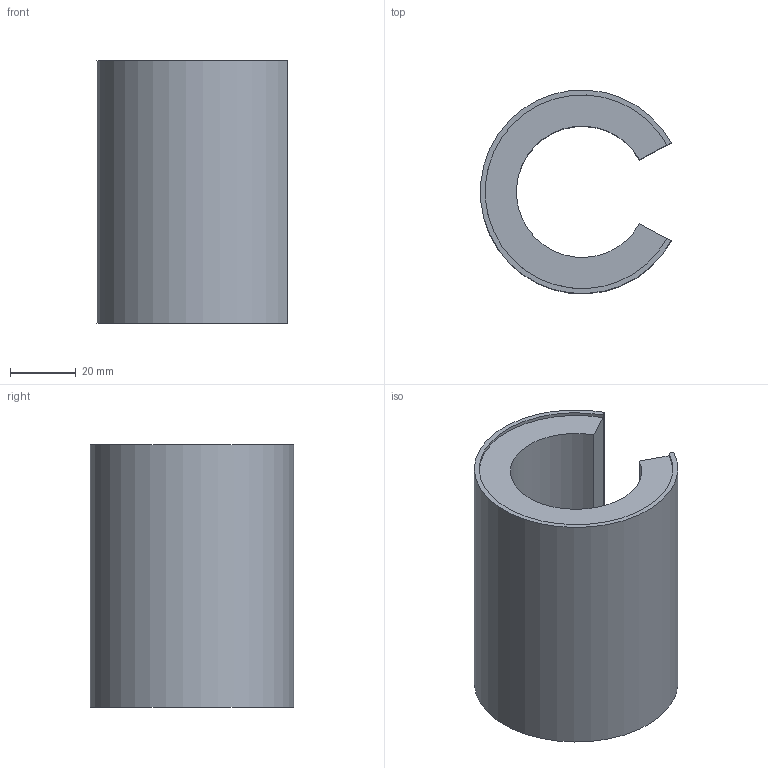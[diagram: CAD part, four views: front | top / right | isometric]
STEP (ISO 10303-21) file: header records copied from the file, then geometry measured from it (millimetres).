
FILE_DESCRIPTION(/* description */ (''),/* implementation_level */ '2;1');
FILE_NAME(/* name */ 'W:\WEBOVKY\Knecht\SBE (O)-UU\SBE (0)-40-UU\SME (O)-40-UU.stp',/* time_stamp */ '2021-03-08T14:46:22+01:00',/* author */ ('mkorenek'),/* organization */ (''),/* preprocessor_version */ 'ST-DEVELOPER v18.1',/* originating_system */ 'Autodesk Inventor 2021',/* authorisation */ '');
FILE_SCHEMA (('AUTOMOTIVE_DESIGN { 1 0 10303 214 3 1 1 }'));
Length unit declared in the file: millimetre
Products named in the file (3): LME-40-UU; vnitřek pouzdra; vnějšek pouzdra
Assembly tree (2 placements, depth 2):
  LME-40-UU
    vnitřek pouzdra
    vnějšek pouzdra
Bounding box: 58.06 x 61.93 x 80 mm (x, y, z)
Volume: 115799.3 mm3; surface area: 50582.6 mm2
Topology: 2 solids, 2 shells, 12 faces, 24 edges, 16 vertices
Faces by surface type: plane 8, cylinder 4
Entity records: 443 total; most frequent: DIRECTION 66, CARTESIAN_POINT 57, ORIENTED_EDGE 48, AXIS2_PLACEMENT_3D 25, EDGE_CURVE 24, LINE 16, VECTOR 16, VERTEX_POINT 16
